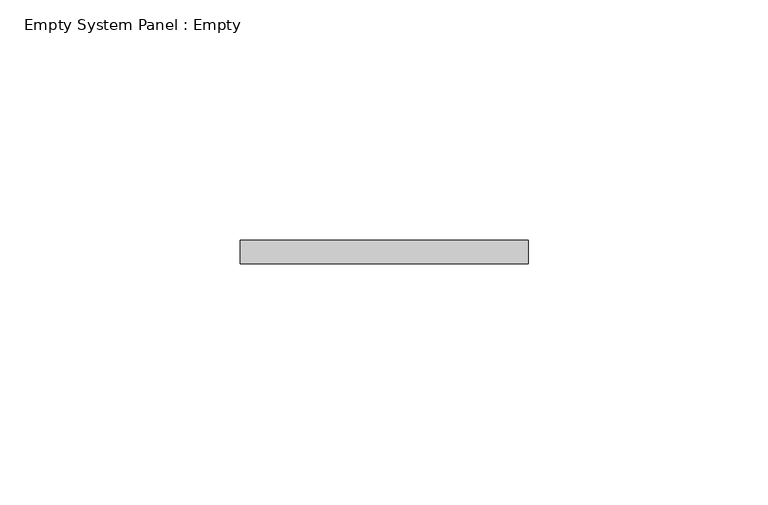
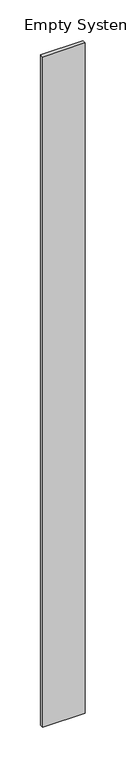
"""IFC4 building model written with IfcOpenShell, lengths in millimetres: plate geometry, Empty System Panel : Empty."""

from ifc_helpers import new_model, si_unit, origin, origin_with_axes, place, context, project, spatial, polyline, outline, extrude, source, transform, mapped, element, save


def empty_system_panel_empty_5ee57205(model_context):
    return source(origin(), model_context, "Body", "SweptSolid", [
        extrude(outline(polyline([(30.0, 97.5), (-30.0, 97.5), (-30.0, 102.5), (30.0, 102.5), (30.0, 97.5)])), origin_with_axes(), (0.0, 0.0, 1.0), 1000.0),
    ])


if __name__ == "__main__":
    model = new_model("IFC4")
    model_context = context("Model", 3, world=origin())
    ifc_project = project(units=[si_unit("LENGTHUNIT", "METRE", prefix="MILLI")], contexts=[model_context])
    site = spatial("IfcSite", under=ifc_project)
    building = spatial("IfcBuilding", under=site)
    placement = place(None, origin())
    empty_system_panel_empty_shape = empty_system_panel_empty_5ee57205(model_context)
    element("IfcPlate", 1, ObjectType="Empty System Panel : Empty", at=placement, inside=building, context=model_context, shape_type="MappedRepresentation", body=[
        mapped(empty_system_panel_empty_shape, transform((0.0, 0.0, 0.0), x_axis=(1.0, 0.0, 0.0), y_axis=(0.0, 1.0, 0.0), z_axis=(0.0, 0.0, 1.0))),
    ])
    save(model, "model.ifc")
